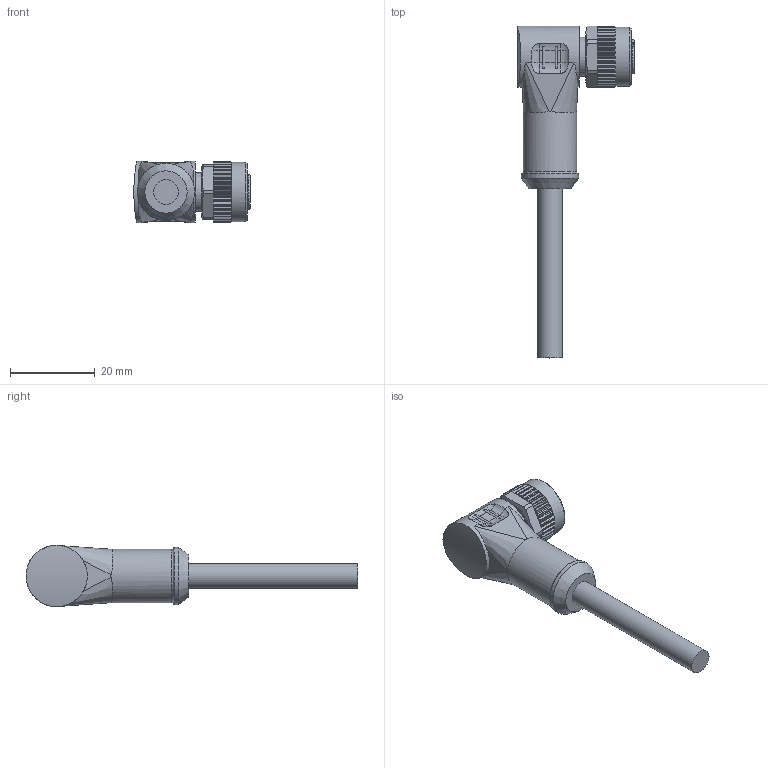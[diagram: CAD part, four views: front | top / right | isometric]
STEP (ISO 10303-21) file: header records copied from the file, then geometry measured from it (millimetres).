
FILE_DESCRIPTION( ( 'STEP AP203' ), ' ' );
FILE_NAME( 'p:/temp/worker_6914/2400_5144/app_50_02017050811383584141334192d056f_000000_00_00_000000/format_3/E12457.stp', '2017-05-08T09:38:38', ( '' ), ( '' ), ' ', 'PARTsolutions', ' ' );
FILE_SCHEMA( ( 'CONFIG_CONTROL_DESIGN' ) );
Length unit declared in the file: millimetre
Products named in the file (1): _E12457
Bounding box: 27.5 x 78.5 x 14.5 mm (x, y, z)
Volume: 8111.6 mm3; surface area: 3963.4 mm2
Topology: 1 solids, 1 shells, 315 faces, 819 edges, 511 vertices
Faces by surface type: plane 164, cylinder 96, cone 41, torus 10, bspline 4
Full cylindrical faces by diameter (mm): 5.8 x1, 9.2 x1, 10.917 x1, 12.64 x1, 13.6 x1, 14 x1, 14.5 x1
Entity records: 10131 total; most frequent: CARTESIAN_POINT 2499, ORIENTED_EDGE 1602, DIRECTION 1588, EDGE_CURVE 801, AXIS2_PLACEMENT_3D 598, VERTEX_POINT 506, LINE 392, VECTOR 392
